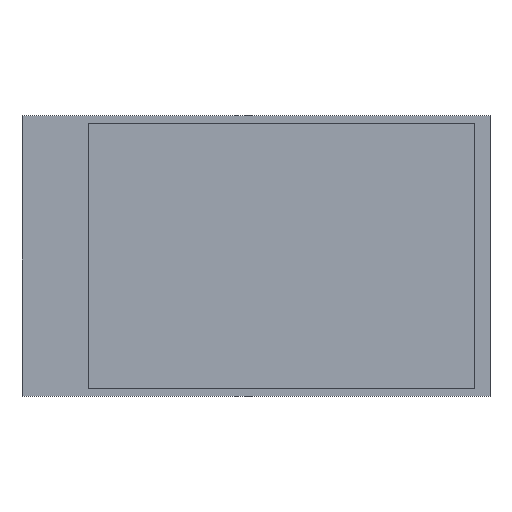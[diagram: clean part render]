
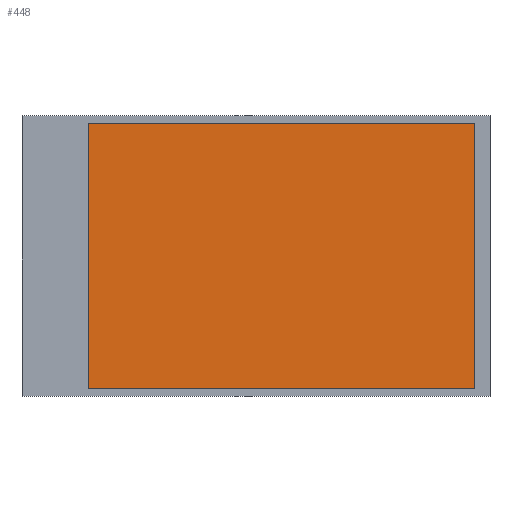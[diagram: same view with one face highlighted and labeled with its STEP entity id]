
A CAD part, top view. The second image highlights one B-rep face of the part: STEP entity #448.
In plain terms, the highlighted planar face has unit normal (0, 0, 1).
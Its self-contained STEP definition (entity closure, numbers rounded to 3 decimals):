
#309=CARTESIAN_POINT('',(6.,-31.,15.04));
#310=VERTEX_POINT('',#309);
#311=CARTESIAN_POINT('',(55.5,-31.,15.04));
#312=VERTEX_POINT('',#311);
#313=CARTESIAN_POINT('',(6.,3.,15.04));
#314=VERTEX_POINT('',#313);
#315=CARTESIAN_POINT('',(55.5,3.,15.04));
#316=VERTEX_POINT('',#315);
#317=DIRECTION('',(0.,1.,0.));
#318=VECTOR('',#317,34.);
#319=CARTESIAN_POINT('',(6.,-31.,15.04));
#320=LINE('',#319,#318);
#321=EDGE_CURVE('',#310,#314,#320,.T.);
#361=DIRECTION('',(0.,1.,0.));
#362=VECTOR('',#361,34.);
#363=CARTESIAN_POINT('',(55.5,-31.,15.04));
#364=LINE('',#363,#362);
#365=EDGE_CURVE('',#312,#316,#364,.T.);
#382=DIRECTION('',(1.,0.,0.));
#383=VECTOR('',#382,49.5);
#384=CARTESIAN_POINT('',(6.,-31.,15.04));
#385=LINE('',#384,#383);
#386=EDGE_CURVE('',#310,#312,#385,.T.);
#404=DIRECTION('',(1.,0.,0.));
#405=VECTOR('',#404,49.5);
#406=CARTESIAN_POINT('',(6.,3.,15.04));
#407=LINE('',#406,#405);
#408=EDGE_CURVE('',#314,#316,#407,.T.);
#437=ORIENTED_EDGE('',*,*,#386,.T.);
#438=ORIENTED_EDGE('',*,*,#365,.T.);
#439=ORIENTED_EDGE('',*,*,#408,.F.);
#440=ORIENTED_EDGE('',*,*,#321,.F.);
#441=EDGE_LOOP('',(#437,#438,#439,#440));
#442=FACE_OUTER_BOUND('',#441,.T.);
#443=CARTESIAN_POINT('',(6.,-31.,15.04));
#444=DIRECTION('',(0.,0.,1.));
#445=DIRECTION('',(1.,0.,0.));
#446=AXIS2_PLACEMENT_3D('',#443,#444,#445);
#447=PLANE('',#446);
#448=ADVANCED_FACE('',(#442),#447,.T.);
